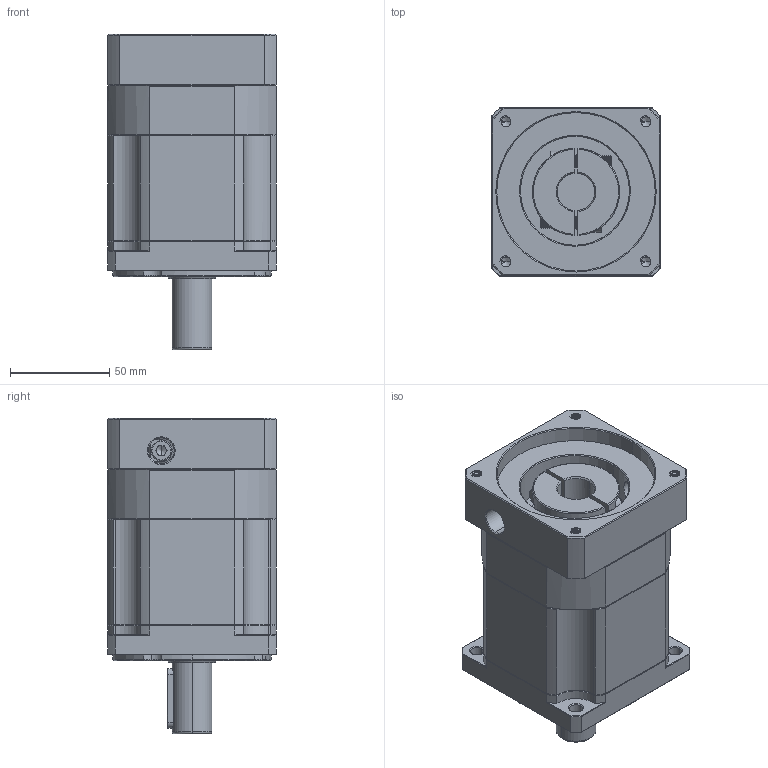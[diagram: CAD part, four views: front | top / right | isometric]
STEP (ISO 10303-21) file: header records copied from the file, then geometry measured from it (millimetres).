
FILE_DESCRIPTION (( 'STEP AP214' ), '1' );
FILE_NAME ('ZB90-D20-L2-19-80-100-M6.STEP', '2022-05-02T15:50:46', ( '' ), ( 'Microsoft' ), 'SwSTEP 2.0', 'SolidWorks 2016', '' );
FILE_SCHEMA (( 'AUTOMOTIVE_DESIGN' ));
Length unit declared in the file: millimetre
Products named in the file (1): ZB90-D20-L2-19-80-100-M6
Bounding box: 85 x 85 x 159.5 mm (x, y, z)
Volume: 718397.4 mm3; surface area: 92298.8 mm2
Topology: 4 solids, 5 shells, 1942 faces, 5067 edges, 3205 vertices
Faces by surface type: plane 886, cylinder 396, cone 334, bspline 299, torus 27
Entity records: 104704 total; most frequent: CARTESIAN_POINT 38405, ORIENTED_EDGE 10090, DIRECTION 8189, EDGE_CURVE 5045, VERTEX_POINT 3205, LINE 3101, VECTOR 3101, AXIS2_PLACEMENT_3D 2544
